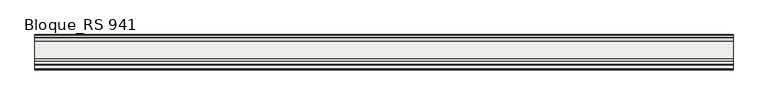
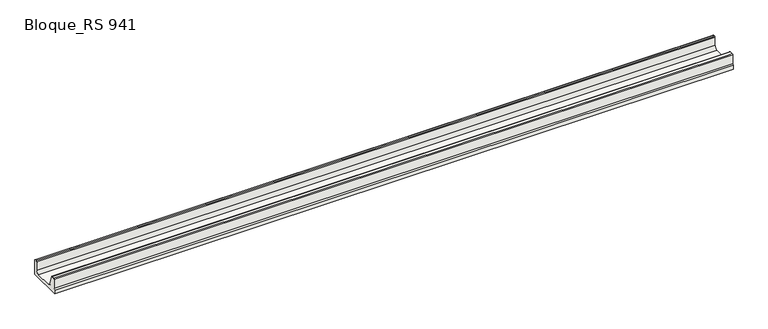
"""IFC4 building model written with IfcOpenShell, lengths in millimetres: slab geometry, ROSA GRES_RS 941 : Bloque_RS 941."""

from ifc_helpers import new_model, si_unit, point, frame, frame_2d, origin, place, context, project, spatial, polyline, circle_curve, trimmed, segment, composite_curve, outline, extrude, source, transform, mapped, element, save


def bloque_rs_941_514d8145(model_context):
    return source(origin(), model_context, "Body", "SweptSolid", [
        extrude(outline(composite_curve([segment(trimmed(circle_curve(frame_2d((290.8048832, 121.0098178)), 4.9901918), [point((290.7950654, 126.0))], [point((295.7950654, 121.0))], False, "CARTESIAN"), True, "CONTINUOUS"), segment(polyline([(295.7950654, 121.0), (295.7950654, 0.0), (15.7946269, 0.0), (15.7946269, 32.0012714), (22.7946272, 44.0), (22.7946272, 121.0)]), True, "CONTINUOUS"), segment(trimmed(circle_curve(frame_2d((27.7946272, 121.0)), 5.0), [point((22.7946272, 121.0))], [point((27.7946272, 126.0))], False, "CARTESIAN"), True, "CONTINUOUS"), segment(polyline([(27.7946272, 126.0), (54.1223252, 126.0)]), True, "CONTINUOUS"), segment(trimmed(circle_curve(frame_2d((54.1351224, 121.0174239)), 4.9825925), [point((54.1223252, 126.0))], [point((58.8933079, 122.4959025))], False, "CARTESIAN"), True, "CONTINUOUS"), segment(polyline([(58.8933079, 122.4959025), (83.9689438, 42.5204875)]), True, "CONTINUOUS"), segment(trimmed(circle_curve(frame_2d((107.6378199, 49.7467022)), 24.7474015), [point((83.9689438, 42.5204875))], [point((107.8238571, 25.0))], True, "CARTESIAN"), True, "CONTINUOUS"), segment(polyline([(107.8238571, 25.0), (246.7450654, 25.0)]), True, "CONTINUOUS"), segment(trimmed(circle_curve(frame_2d((246.8549987, 49.9398968)), 24.9401391), [point((246.7450654, 25.0))], [point((271.7950654, 50.0))], True, "CARTESIAN"), True, "CONTINUOUS"), segment(polyline([(271.7950654, 50.0), (271.7950654, 121.221769)]), True, "CONTINUOUS"), segment(trimmed(circle_curve(frame_2d((276.7873115, 121.0029619)), 4.9970389), [point((271.7950654, 121.221769))], [point((276.7901448, 126.0))], False, "CARTESIAN"), True, "CONTINUOUS"), segment(polyline([(276.7901448, 126.0), (290.7950654, 126.0)]), True, "CONTINUOUS")], self_intersect=False)), frame((0.0, 0.0, 0.0), z_axis=(1.0, 0.0, 0.0), x_axis=(0.0, 1.0, 0.0)), (0.0, 0.0, 1.0), 5540.0),
    ])


if __name__ == "__main__":
    model = new_model("IFC4")
    model_context = context("Model", 3, world=origin())
    ifc_project = project(units=[si_unit("LENGTHUNIT", "METRE", prefix="MILLI")], contexts=[model_context])
    site = spatial("IfcSite", under=ifc_project)
    building = spatial("IfcBuilding", under=site)
    placement = place(None, origin())
    bloque_rs_941_shape = bloque_rs_941_514d8145(model_context)
    element("IfcSlab", 1, ObjectType="ROSA GRES_RS 941 : Bloque_RS 941", at=placement, inside=building, context=model_context, shape_type="MappedRepresentation", body=[
        mapped(bloque_rs_941_shape, transform((0.0, 0.0, 0.0), x_axis=(1.0, 0.0, 0.0), y_axis=(0.0, 1.0, 0.0), z_axis=(0.0, 0.0, 1.0))),
    ])
    save(model, "model.ifc")
